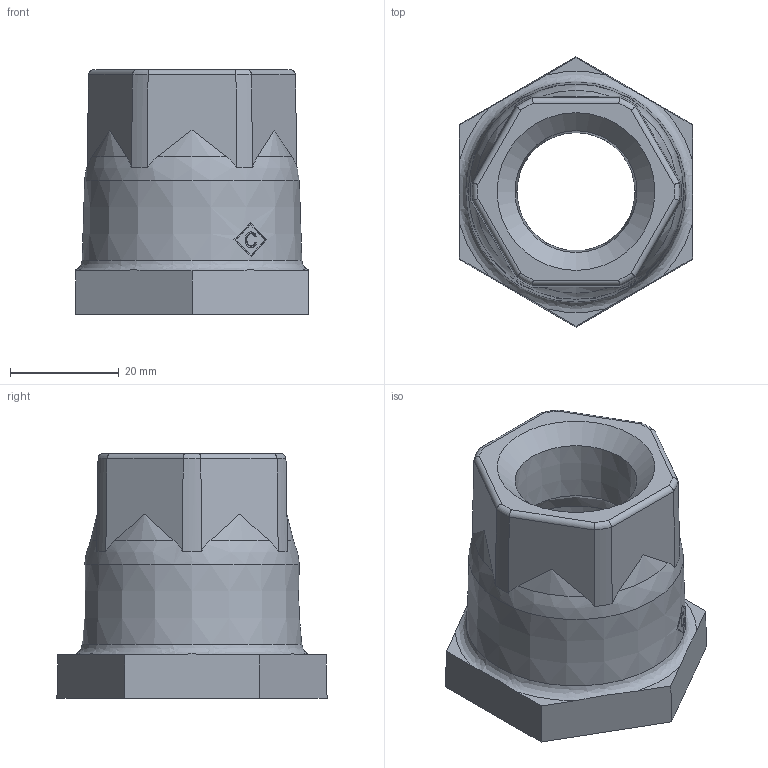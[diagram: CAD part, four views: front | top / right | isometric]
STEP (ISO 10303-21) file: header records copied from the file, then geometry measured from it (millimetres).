
FILE_DESCRIPTION((''),'2;1');
FILE_NAME('P:\Fastrack\53909_CRANE\Crane\Modified\Fig.179 Reducing Socket\New 1.00 inch\179-1.00x0.75.stp','2009-09-18T14:27:09',('btaylor'),(''),'Autodesk Inventor 2008','Autodesk Inventor 2008','');
FILE_SCHEMA(('AUTOMOTIVE_DESIGN { 1 0 10303 214 1 1 1 1 }'));
Length unit declared in the file: millimetre
Products named in the file (1): 179-1.00x0.75
Bounding box: 43 x 49.65 x 45 mm (x, y, z)
Volume: 30052 mm3; surface area: 10965.4 mm2
Topology: 1 solids, 1 shells, 73 faces, 194 edges, 126 vertices
Faces by surface type: plane 30, bspline 17, cone 14, torus 6, cylinder 6
Entity records: 3108 total; most frequent: CARTESIAN_POINT 1467, ORIENTED_EDGE 364, DIRECTION 284, EDGE_CURVE 182, VERTEX_POINT 122, AXIS2_PLACEMENT_3D 115, EDGE_LOOP 86, FACE_OUTER_BOUND 73
